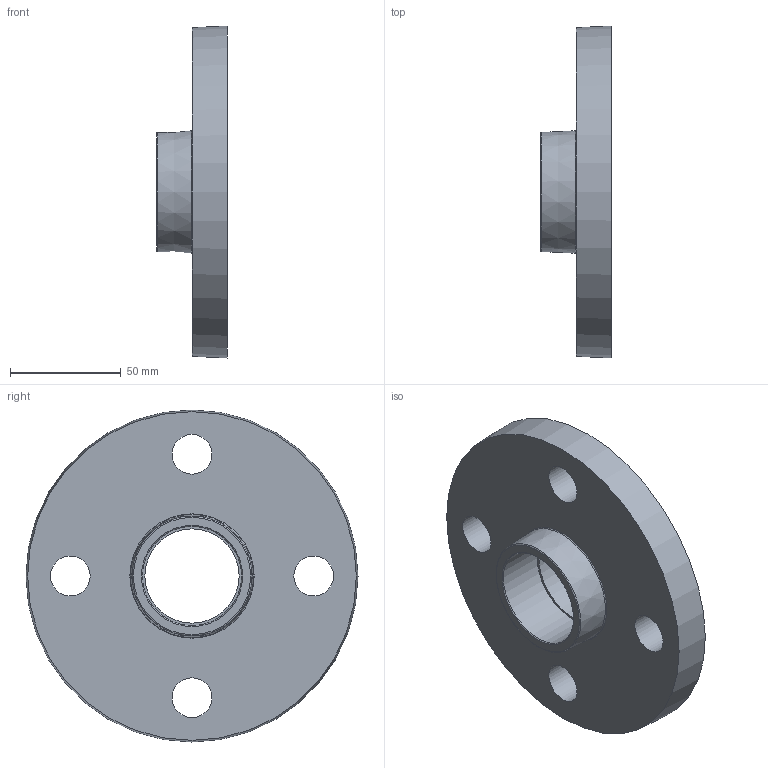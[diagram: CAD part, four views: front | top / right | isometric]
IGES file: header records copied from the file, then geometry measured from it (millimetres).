
Global section: file name: 059201015.ipt; native system: Autodesk Inventor 2015; preprocessor: unknown; author: KIM; date: 20171207.170012; units: millimetre
Bounding box: 32 x 150 x 150 mm (x, y, z)
Volume: 251935.8 mm3; surface area: 48452.9 mm2
Topology: 1 solids, 1 shells, 28 faces, 62 edges, 44 vertices
Faces by surface type: revolution 13, plane 10, cylinder 3, cone 2
Full cylindrical faces by diameter (mm): 45 x1, 48 x1, 51 x1
